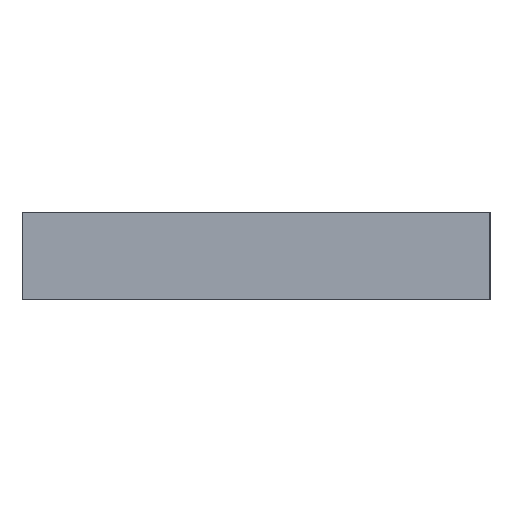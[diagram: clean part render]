
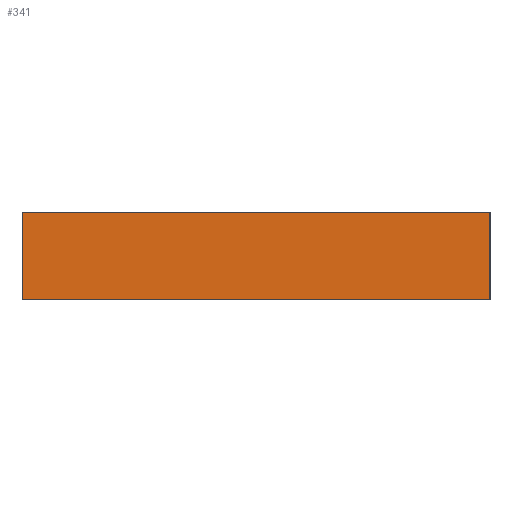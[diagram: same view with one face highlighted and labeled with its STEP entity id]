
A CAD part, left-side view. The second image highlights one B-rep face of the part: STEP entity #341.
In plain terms, the highlighted planar face has unit normal (-1, 0, 0).
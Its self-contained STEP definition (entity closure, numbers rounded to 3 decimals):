
#62 = ORIENTED_EDGE ( 'NONE', *, *, #305, .T. ) ;
#94 = EDGE_CURVE ( 'NONE', #334, #274, #140, .T. ) ;
#140 = LINE ( 'NONE', #141, #142 ) ;
#141 = CARTESIAN_POINT ( 'NONE',  ( -60., -40., -15. ) ) ;
#142 = VECTOR ( 'NONE', #143, 1000. ) ;
#143 = DIRECTION ( 'NONE',  ( 0., -1., 0. ) ) ;
#236 = ORIENTED_EDGE ( 'NONE', *, *, #94, .T. ) ;
#274 = VERTEX_POINT ( 'NONE', #727 ) ;
#305 = EDGE_CURVE ( 'NONE', #274, #413, #852, .T. ) ;
#307 = EDGE_LOOP ( 'NONE', ( #998, #404, #236, #62 ) ) ;
#334 = VERTEX_POINT ( 'NONE', #954 ) ;
#341 = ADVANCED_FACE ( 'NONE', ( #980 ), #981, .T. ) ;
#371 = EDGE_CURVE ( 'NONE', #334, #449, #468, .T. ) ;
#404 = ORIENTED_EDGE ( 'NONE', *, *, #371, .F. ) ;
#413 = VERTEX_POINT ( 'NONE', #669 ) ;
#449 = VERTEX_POINT ( 'NONE', #892 ) ;
#468 = LINE ( 'NONE', #469, #470 ) ;
#469 = CARTESIAN_POINT ( 'NONE',  ( -60., 40., -15. ) ) ;
#470 = VECTOR ( 'NONE', #471, 1000. ) ;
#471 = DIRECTION ( 'NONE',  ( 0., 0., 1. ) ) ;
#622 = EDGE_CURVE ( 'NONE', #449, #413, #1021, .T. ) ;
#669 = CARTESIAN_POINT ( 'NONE',  ( -60., -40., 0. ) ) ;
#727 = CARTESIAN_POINT ( 'NONE',  ( -60., -40., -15. ) ) ;
#852 = LINE ( 'NONE', #853, #854 ) ;
#853 = CARTESIAN_POINT ( 'NONE',  ( -60., -40., -15. ) ) ;
#854 = VECTOR ( 'NONE', #855, 1000. ) ;
#855 = DIRECTION ( 'NONE',  ( 0., 0., 1. ) ) ;
#892 = CARTESIAN_POINT ( 'NONE',  ( -60., 40., 0. ) ) ;
#954 = CARTESIAN_POINT ( 'NONE',  ( -60., 40., -15. ) ) ;
#980 = FACE_OUTER_BOUND ( 'NONE', #307, .T. ) ;
#981 = PLANE ( 'NONE',  #982 ) ;
#982 = AXIS2_PLACEMENT_3D ( 'NONE', #983, #984, #985 ) ;
#983 = CARTESIAN_POINT ( 'NONE',  ( -60., -40., -15. ) ) ;
#984 = DIRECTION ( 'NONE',  ( -1., 0., 0. ) ) ;
#985 = DIRECTION ( 'NONE',  ( 0., 0., 1. ) ) ;
#998 = ORIENTED_EDGE ( 'NONE', *, *, #622, .F. ) ;
#1021 = LINE ( 'NONE', #1022, #1023 ) ;
#1022 = CARTESIAN_POINT ( 'NONE',  ( -60., -40., 0. ) ) ;
#1023 = VECTOR ( 'NONE', #1024, 1000. ) ;
#1024 = DIRECTION ( 'NONE',  ( 0., -1., 0. ) ) ;
